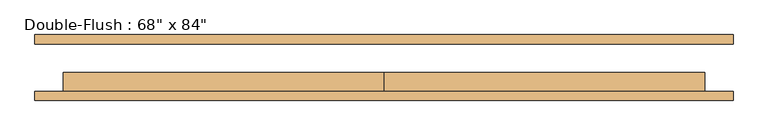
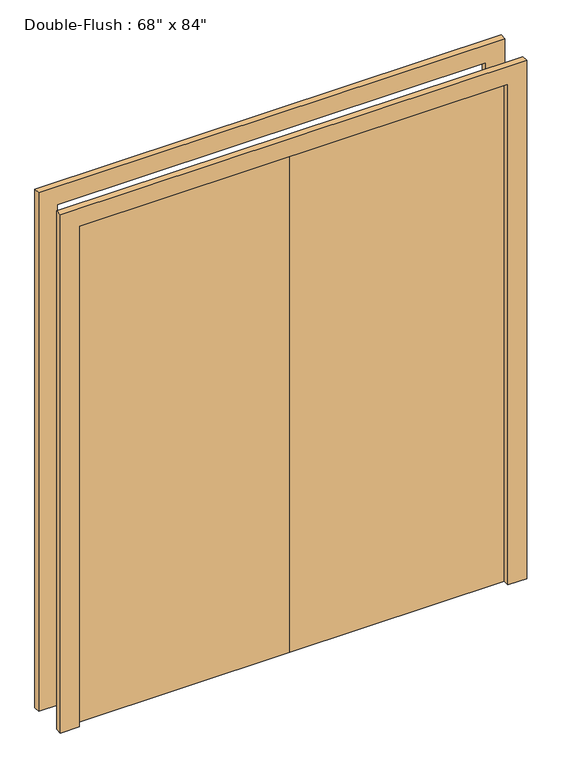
"""IFC4 building model written with IfcOpenShell, lengths in millimetres: door geometry."""

from ifc_helpers import new_model, si_unit, frame, origin, origin_with_axes, place, context, project, spatial, polyline, outline, extrude, source, transform, mapped, element, save


def door_74fba8be(model_context):
    return source(origin(), model_context, "Body", "SweptSolid", [
        extrude(outline(polyline([(0.0, -63.5), (0.0, -12.7), (863.6, -12.7), (863.6, -63.5), (0.0, -63.5)])), origin_with_axes(), (0.0, 0.0, 1.0), 2133.6),
        extrude(outline(polyline([(-863.6, -63.5), (-863.6, -12.7), (0.0, -12.7), (0.0, -63.5), (-863.6, -63.5)])), origin_with_axes(), (0.0, 0.0, 1.0), 2133.6),
        extrude(outline(polyline([(2133.6, -863.6), (2133.6, 863.6), (0.0, 863.6), (0.0, 939.8), (2209.8, 939.8), (2209.8, -939.8), (0.0, -939.8), (0.0, -863.6), (2133.6, -863.6)])), frame((0.0, 63.5, 0.0), z_axis=(0.0, 1.0, 0.0), x_axis=(0.0, 0.0, 1.0)), (0.0, 0.0, 1.0), 25.4),
        extrude(outline(polyline([(2133.6, -863.6), (2133.6, 863.6), (0.0, 863.6), (0.0, 939.8), (2209.8, 939.8), (2209.8, -939.8), (0.0, -939.8), (0.0, -863.6), (2133.6, -863.6)])), frame((0.0, -88.9, 0.0), z_axis=(0.0, 1.0, 0.0), x_axis=(0.0, 0.0, 1.0)), (0.0, 0.0, 1.0), 25.4),
    ])


if __name__ == "__main__":
    model = new_model("IFC4")
    model_context = context("Model", 3, world=origin())
    ifc_project = project(units=[si_unit("LENGTHUNIT", "METRE", prefix="MILLI")], contexts=[model_context])
    site = spatial("IfcSite", under=ifc_project)
    building = spatial("IfcBuilding", under=site)
    placement = place(None, origin())
    door_shape = door_74fba8be(model_context)
    element("IfcDoor", 1, ObjectType="Double-Flush : 68\" x 84\"", at=placement, inside=building, context=model_context, shape_type="MappedRepresentation", body=[
        mapped(door_shape, transform((0.0, 0.0, 0.0), x_axis=(1.0, 0.0, 0.0), y_axis=(0.0, 1.0, 0.0), z_axis=(0.0, 0.0, 1.0))),
    ])
    save(model, "model.ifc")
